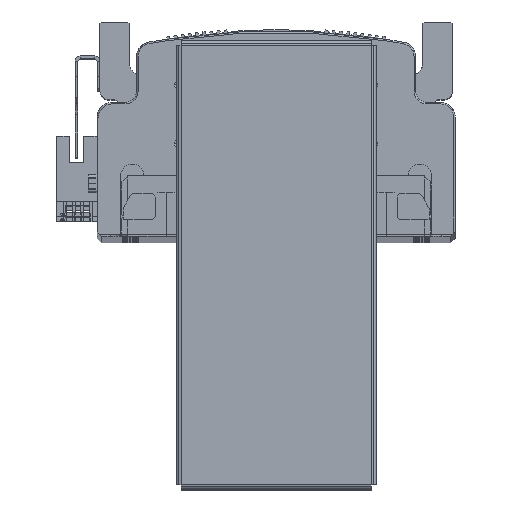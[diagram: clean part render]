
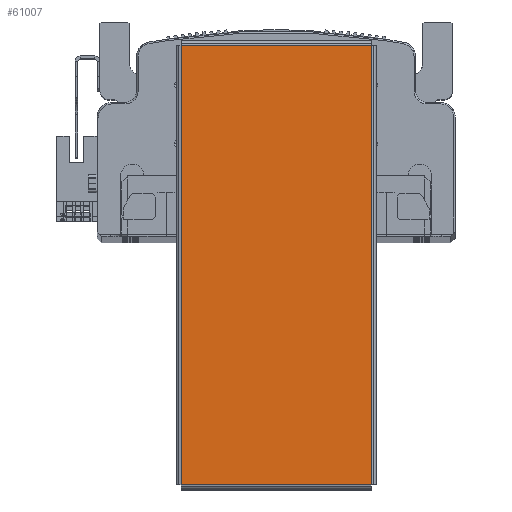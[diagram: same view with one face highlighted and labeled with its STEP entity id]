
A CAD part, top view. The second image highlights one B-rep face of the part: STEP entity #61007.
In plain terms, the highlighted planar face has unit normal (0, 0, 1) as drawn and (0, 0, -1) by its records, which use the part's own axes.
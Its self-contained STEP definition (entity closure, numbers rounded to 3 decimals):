
#17494 = EDGE_CURVE ( 'NONE', #73346, #73522, #34597, .T. ) ;
#17515 = EDGE_CURVE ( 'NONE', #73522, #73770, #34487, .T. ) ;
#17529 = EDGE_CURVE ( 'NONE', #73770, #73461, #34729, .T. ) ;
#17552 = EDGE_CURVE ( 'NONE', #73461, #73346, #34685, .T. ) ;
#22314 = FACE_OUTER_BOUND ( 'NONE', #97710, .T. ) ;
#30249 = PLANE ( 'NONE',  #100328 ) ;
#30262 = DIRECTION ( 'NONE',  ( 0., 0., 1. ) ) ;
#30267 = CARTESIAN_POINT ( 'NONE',  ( 0., 0., -1. ) ) ;
#30269 = DIRECTION ( 'NONE',  ( 1., 0., 0. ) ) ;
#34487 = LINE ( 'NONE', #62925, #34577 ) ;
#34523 = VECTOR ( 'NONE', #62817, 1000. ) ;
#34577 = VECTOR ( 'NONE', #62917, 1000. ) ;
#34597 = LINE ( 'NONE', #62688, #34523 ) ;
#34609 = VECTOR ( 'NONE', #63338, 1000. ) ;
#34619 = VECTOR ( 'NONE', #63027, 1000. ) ;
#34685 = LINE ( 'NONE', #63334, #34609 ) ;
#34729 = LINE ( 'NONE', #62955, #34619 ) ;
#46924 = CARTESIAN_POINT ( 'NONE',  ( 74.763, 32.363, -1. ) ) ;
#46933 = CARTESIAN_POINT ( 'NONE',  ( 74.763, -32.363, -1. ) ) ;
#46957 = CARTESIAN_POINT ( 'NONE',  ( -74.763, 32.363, -1. ) ) ;
#46987 = CARTESIAN_POINT ( 'NONE',  ( -74.763, -32.363, -1. ) ) ;
#61007 = ADVANCED_FACE ( 'NONE', ( #22314 ), #30249, .F. ) ;
#62688 = CARTESIAN_POINT ( 'NONE',  ( 74.793, -32.363, -1. ) ) ;
#62817 = DIRECTION ( 'NONE',  ( -1., 0., 0. ) ) ;
#62917 = DIRECTION ( 'NONE',  ( 0., 1., 0. ) ) ;
#62925 = CARTESIAN_POINT ( 'NONE',  ( -74.763, -32.393, -1. ) ) ;
#62955 = CARTESIAN_POINT ( 'NONE',  ( -74.793, 32.363, -1. ) ) ;
#63027 = DIRECTION ( 'NONE',  ( 1., 0., 0. ) ) ;
#63334 = CARTESIAN_POINT ( 'NONE',  ( 74.763, 32.393, -1. ) ) ;
#63338 = DIRECTION ( 'NONE',  ( 0., -1., 0. ) ) ;
#72566 = ORIENTED_EDGE ( 'NONE', *, *, #17529, .T. ) ;
#72708 = ORIENTED_EDGE ( 'NONE', *, *, #17515, .T. ) ;
#72778 = ORIENTED_EDGE ( 'NONE', *, *, #17552, .T. ) ;
#72902 = ORIENTED_EDGE ( 'NONE', *, *, #17494, .T. ) ;
#73346 = VERTEX_POINT ( 'NONE', #46933 ) ;
#73461 = VERTEX_POINT ( 'NONE', #46924 ) ;
#73522 = VERTEX_POINT ( 'NONE', #46987 ) ;
#73770 = VERTEX_POINT ( 'NONE', #46957 ) ;
#97710 = EDGE_LOOP ( 'NONE', ( #72778, #72902, #72708, #72566 ) ) ;
#100328 = AXIS2_PLACEMENT_3D ( 'NONE', #30267, #30262, #30269 ) ;
